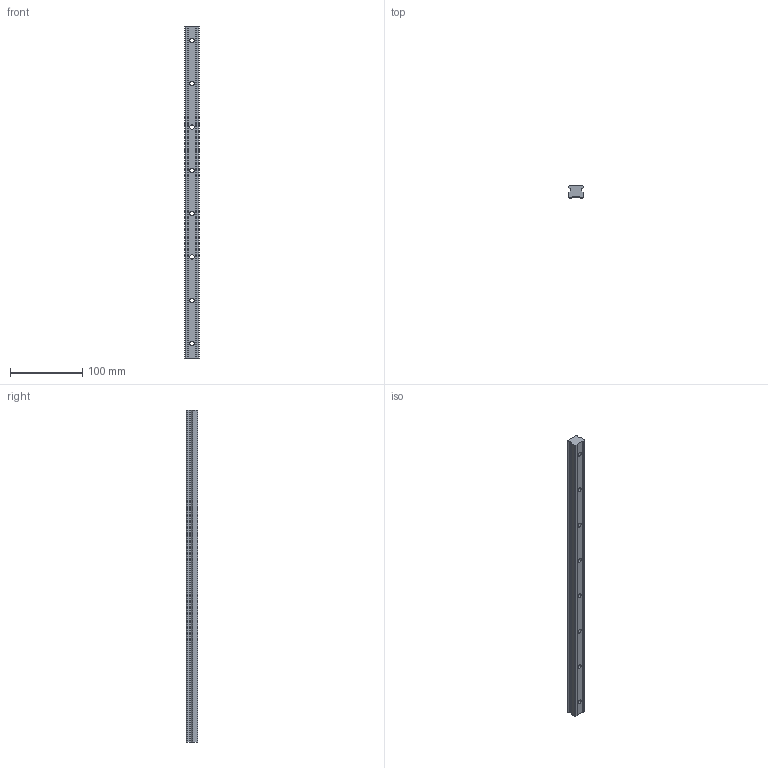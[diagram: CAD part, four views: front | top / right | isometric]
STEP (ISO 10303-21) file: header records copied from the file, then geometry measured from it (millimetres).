
FILE_DESCRIPTION (( 'STEP AP203' ), '1' );
FILE_NAME ('L1016.BL20-0460.step', '2019-06-12T11:46:26', ( '' ), ( '' ), 'SwSTEP 2.0', 'SolidWorks 2017', '' );
FILE_SCHEMA (( 'CONFIG_CONTROL_DESIGN' ));
Length unit declared in the file: millimetre
Products named in the file (1): L1016.BL20-0460
Bounding box: 20 x 16.3 x 460 mm (x, y, z)
Volume: 127643.7 mm3; surface area: 37583.5 mm2
Topology: 1 solids, 1 shells, 66 faces, 168 edges, 112 vertices
Faces by surface type: cylinder 36, plane 30
Entity records: 2133 total; most frequent: DIRECTION 374, CARTESIAN_POINT 347, ORIENTED_EDGE 336, EDGE_CURVE 168, AXIS2_PLACEMENT_3D 139, VERTEX_POINT 112, VECTOR 96, LINE 96
